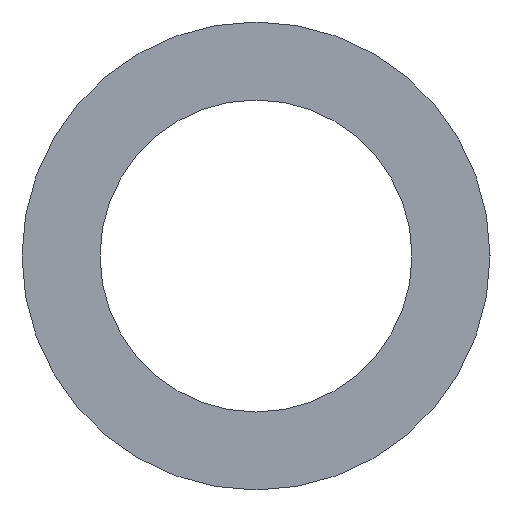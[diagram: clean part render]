
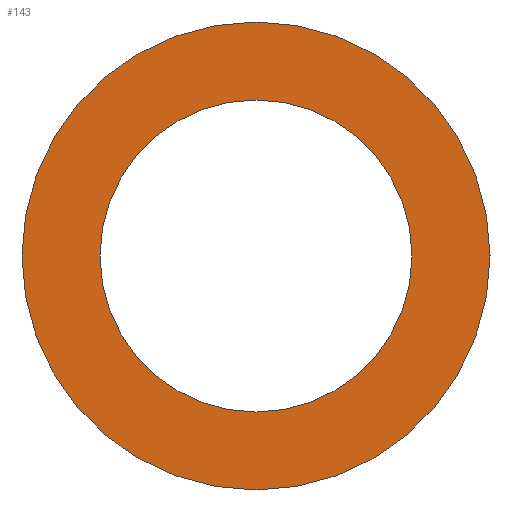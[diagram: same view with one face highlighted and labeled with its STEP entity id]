
A CAD part, left-side view. The second image highlights one B-rep face of the part: STEP entity #143.
In plain terms, the highlighted planar face has unit normal (-1, 0, 0).
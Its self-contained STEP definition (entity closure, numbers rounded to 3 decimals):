
#21=PLANE('',#173);
#32=ORIENTED_EDGE('',*,*,#55,.F.);
#33=ORIENTED_EDGE('',*,*,#56,.T.);
#55=EDGE_CURVE('',#67,#67,#79,.T.);
#56=EDGE_CURVE('',#68,#68,#80,.T.);
#67=VERTEX_POINT('',#255);
#68=VERTEX_POINT('',#257);
#79=CIRCLE('',#174,45.);
#80=CIRCLE('',#175,30.);
#92=EDGE_LOOP('',(#32));
#93=EDGE_LOOP('',(#33));
#116=FACE_BOUND('',#92,.T.);
#117=FACE_BOUND('',#93,.T.);
#143=ADVANCED_FACE('',(#116,#117),#21,.F.);
#173=AXIS2_PLACEMENT_3D('',#253,#207,#208);
#174=AXIS2_PLACEMENT_3D('',#254,#209,#210);
#175=AXIS2_PLACEMENT_3D('',#256,#211,#212);
#207=DIRECTION('',(1.,0.,0.));
#208=DIRECTION('',(0.,0.,-1.));
#209=DIRECTION('',(1.,0.,0.));
#210=DIRECTION('',(0.,0.,-1.));
#211=DIRECTION('',(1.,0.,0.));
#212=DIRECTION('',(0.,0.,-1.));
#253=CARTESIAN_POINT('',(-104.5,0.,0.));
#254=CARTESIAN_POINT('',(-104.5,0.,0.));
#255=CARTESIAN_POINT('',(-104.5,0.,-45.));
#256=CARTESIAN_POINT('',(-104.5,0.,0.));
#257=CARTESIAN_POINT('',(-104.5,0.,-30.));
